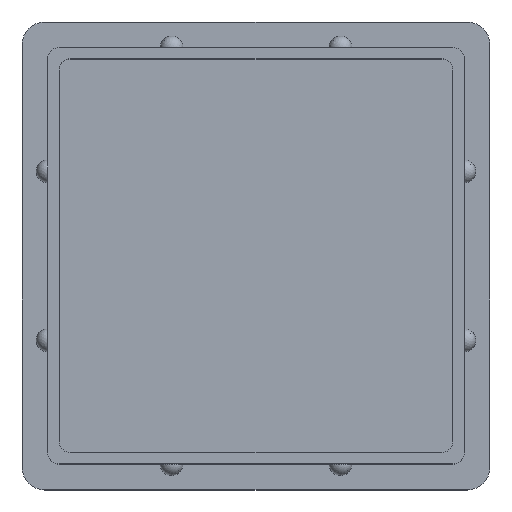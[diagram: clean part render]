
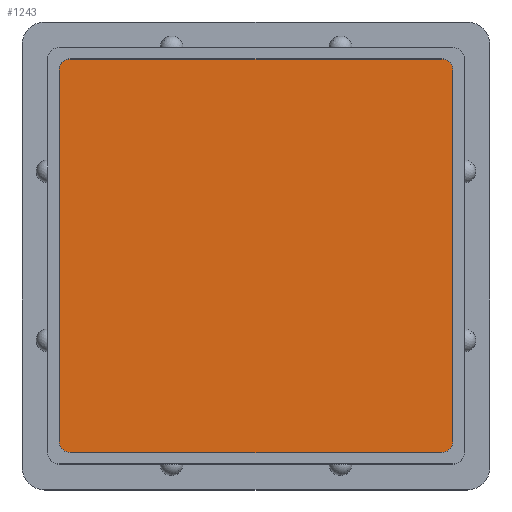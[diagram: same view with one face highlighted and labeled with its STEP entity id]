
A CAD part, top view. The second image highlights one B-rep face of the part: STEP entity #1243.
In plain terms, the highlighted planar face has unit normal (0, 0, 1).
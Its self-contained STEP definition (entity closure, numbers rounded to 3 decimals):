
#133=LINE('',#2155,#229);
#134=LINE('',#2159,#230);
#135=LINE('',#2163,#231);
#136=LINE('',#2166,#232);
#229=VECTOR('',#1720,32.5);
#230=VECTOR('',#1723,32.5);
#231=VECTOR('',#1726,32.5);
#232=VECTOR('',#1729,32.5);
#278=PLANE('',#1382);
#349=FACE_OUTER_BOUND('',#436,.T.);
#436=EDGE_LOOP('',(#1083,#1084,#1085,#1086,#1087,#1088,#1089,#1090));
#519=CIRCLE('',#1380,1.);
#521=CIRCLE('',#1383,1.);
#522=CIRCLE('',#1384,1.);
#523=CIRCLE('',#1385,1.);
#615=VERTEX_POINT('',#2145);
#616=VERTEX_POINT('',#2146);
#619=VERTEX_POINT('',#2154);
#620=VERTEX_POINT('',#2156);
#621=VERTEX_POINT('',#2158);
#622=VERTEX_POINT('',#2160);
#623=VERTEX_POINT('',#2162);
#624=VERTEX_POINT('',#2164);
#775=EDGE_CURVE('',#615,#616,#519,.T.);
#779=EDGE_CURVE('',#616,#619,#133,.F.);
#780=EDGE_CURVE('',#619,#620,#521,.T.);
#781=EDGE_CURVE('',#620,#621,#134,.F.);
#782=EDGE_CURVE('',#621,#622,#522,.T.);
#783=EDGE_CURVE('',#622,#623,#135,.F.);
#784=EDGE_CURVE('',#623,#624,#523,.T.);
#785=EDGE_CURVE('',#624,#615,#136,.F.);
#1083=ORIENTED_EDGE('',*,*,#775,.T.);
#1084=ORIENTED_EDGE('',*,*,#779,.T.);
#1085=ORIENTED_EDGE('',*,*,#780,.T.);
#1086=ORIENTED_EDGE('',*,*,#781,.T.);
#1087=ORIENTED_EDGE('',*,*,#782,.T.);
#1088=ORIENTED_EDGE('',*,*,#783,.T.);
#1089=ORIENTED_EDGE('',*,*,#784,.T.);
#1090=ORIENTED_EDGE('',*,*,#785,.T.);
#1243=ADVANCED_FACE('',(#349),#278,.T.);
#1380=AXIS2_PLACEMENT_3D('',#2147,#1712,#1713);
#1382=AXIS2_PLACEMENT_3D('',#2153,#1718,#1719);
#1383=AXIS2_PLACEMENT_3D('',#2157,#1721,#1722);
#1384=AXIS2_PLACEMENT_3D('',#2161,#1724,#1725);
#1385=AXIS2_PLACEMENT_3D('',#2165,#1727,#1728);
#1712=DIRECTION('center_axis',(0.,0.,1.));
#1713=DIRECTION('ref_axis',(0.707,-0.707,0.));
#1718=DIRECTION('center_axis',(0.,0.,1.));
#1719=DIRECTION('ref_axis',(1.,0.,0.));
#1720=DIRECTION('',(0.,-1.,0.));
#1721=DIRECTION('center_axis',(0.,0.,1.));
#1722=DIRECTION('ref_axis',(0.707,0.707,0.));
#1723=DIRECTION('',(1.,0.,0.));
#1724=DIRECTION('center_axis',(0.,0.,1.));
#1725=DIRECTION('ref_axis',(-0.707,0.707,0.));
#1726=DIRECTION('',(0.,1.,0.));
#1727=DIRECTION('center_axis',(0.,0.,1.));
#1728=DIRECTION('ref_axis',(-0.707,-0.707,0.));
#1729=DIRECTION('',(-1.,0.,0.));
#2145=CARTESIAN_POINT('',(16.25,-17.25,1.));
#2146=CARTESIAN_POINT('',(17.25,-16.25,1.));
#2147=CARTESIAN_POINT('Origin',(16.25,-16.25,1.));
#2153=CARTESIAN_POINT('Origin',(0.,0.,1.));
#2154=CARTESIAN_POINT('',(17.25,16.25,1.));
#2155=CARTESIAN_POINT('',(17.25,-9.125,1.));
#2156=CARTESIAN_POINT('',(16.25,17.25,1.));
#2157=CARTESIAN_POINT('Origin',(16.25,16.25,1.));
#2158=CARTESIAN_POINT('',(-16.25,17.25,1.));
#2159=CARTESIAN_POINT('',(9.125,17.25,1.));
#2160=CARTESIAN_POINT('',(-17.25,16.25,1.));
#2161=CARTESIAN_POINT('Origin',(-16.25,16.25,1.));
#2162=CARTESIAN_POINT('',(-17.25,-16.25,1.));
#2163=CARTESIAN_POINT('',(-17.25,9.125,1.));
#2164=CARTESIAN_POINT('',(-16.25,-17.25,1.));
#2165=CARTESIAN_POINT('Origin',(-16.25,-16.25,1.));
#2166=CARTESIAN_POINT('',(-9.125,-17.25,1.));
